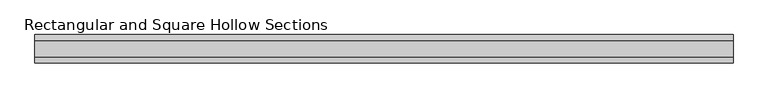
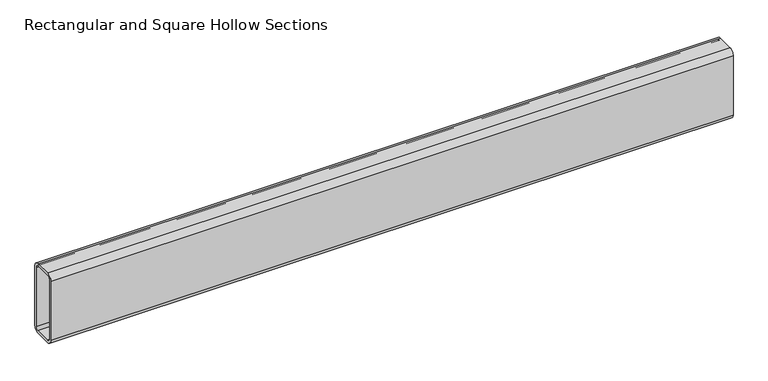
"""IFC4 building model written with IfcOpenShell, lengths in millimetres: beam geometry, Rectangular and Square Hollow Sections : TREC160x60x6."""

from ifc_helpers import new_model, si_unit, point, frame, frame_2d, origin, place, context, project, spatial, polyline, circle_curve, trimmed, segment, composite_curve, outline, extrude, source, transform, mapped, element, save


def rectangular_and_square_hollow_sections_a6e25ca9(model_context):
    return source(origin(), model_context, "Body", "SweptSolid", [
        extrude(outline(composite_curve([segment(polyline([(30.0, 68.0), (30.0, -68.0)]), True, "CONTINUOUS"), segment(trimmed(circle_curve(frame_2d((18.0, -68.0)), 12.0), [point((30.0, -68.0))], [point((18.0, -80.0))], False, "CARTESIAN"), True, "CONTINUOUS"), segment(polyline([(18.0, -80.0), (-18.0, -80.0)]), True, "CONTINUOUS"), segment(trimmed(circle_curve(frame_2d((-18.0, -68.0)), 12.0), [point((-18.0, -80.0))], [point((-30.0, -68.0))], False, "CARTESIAN"), True, "CONTINUOUS"), segment(polyline([(-30.0, -68.0), (-30.0, 68.0)]), True, "CONTINUOUS"), segment(trimmed(circle_curve(frame_2d((-18.0, 68.0)), 12.0), [point((-30.0, 68.0))], [point((-18.0, 80.0))], False, "CARTESIAN"), True, "CONTINUOUS"), segment(polyline([(-18.0, 80.0), (18.0, 80.0)]), True, "CONTINUOUS"), segment(trimmed(circle_curve(frame_2d((18.0, 68.0)), 12.0), [point((18.0, 80.0))], [point((30.0, 68.0))], False, "CARTESIAN"), True, "CONTINUOUS")], self_intersect=False), holes=[composite_curve([segment(trimmed(circle_curve(frame_2d((-18.0, 68.0)), 6.0), [point((-18.0, 74.0))], [point((-24.0, 68.0))], True, "CARTESIAN"), True, "CONTINUOUS"), segment(polyline([(-24.0, 68.0), (-24.0, -68.0)]), True, "CONTINUOUS"), segment(trimmed(circle_curve(frame_2d((-18.0, -68.0)), 6.0), [point((-24.0, -68.0))], [point((-18.0, -74.0))], True, "CARTESIAN"), True, "CONTINUOUS"), segment(polyline([(-18.0, -74.0), (18.0, -74.0)]), True, "CONTINUOUS"), segment(trimmed(circle_curve(frame_2d((18.0, -68.0)), 6.0), [point((18.0, -74.0))], [point((24.0, -68.0))], True, "CARTESIAN"), True, "CONTINUOUS"), segment(polyline([(24.0, -68.0), (24.0, 68.0)]), True, "CONTINUOUS"), segment(trimmed(circle_curve(frame_2d((18.0, 68.0)), 6.0), [point((24.0, 68.0))], [point((18.0, 74.0))], True, "CARTESIAN"), True, "CONTINUOUS"), segment(polyline([(18.0, 74.0), (-18.0, 74.0)]), True, "CONTINUOUS")], self_intersect=False)]), frame((-736.0, 0.0, 0.0), z_axis=(1.0, 0.0, 0.0), x_axis=(0.0, 1.0, 0.0)), (0.0, 0.0, 1.0), 1485.0),
    ])


if __name__ == "__main__":
    model = new_model("IFC4")
    model_context = context("Model", 3, world=origin())
    ifc_project = project(units=[si_unit("LENGTHUNIT", "METRE", prefix="MILLI")], contexts=[model_context])
    site = spatial("IfcSite", under=ifc_project)
    building = spatial("IfcBuilding", under=site)
    placement = place(None, origin())
    rectangular_and_square_hollow_sections_shape = rectangular_and_square_hollow_sections_a6e25ca9(model_context)
    element("IfcBeam", 1, ObjectType="Rectangular and Square Hollow Sections : TREC160x60x6", at=placement, inside=building, context=model_context, shape_type="MappedRepresentation", body=[
        mapped(rectangular_and_square_hollow_sections_shape, transform((0.0, 0.0, 0.0), x_axis=(1.0, 0.0, 0.0), y_axis=(0.0, 1.0, 0.0), z_axis=(0.0, 0.0, 1.0))),
    ])
    save(model, "model.ifc")
